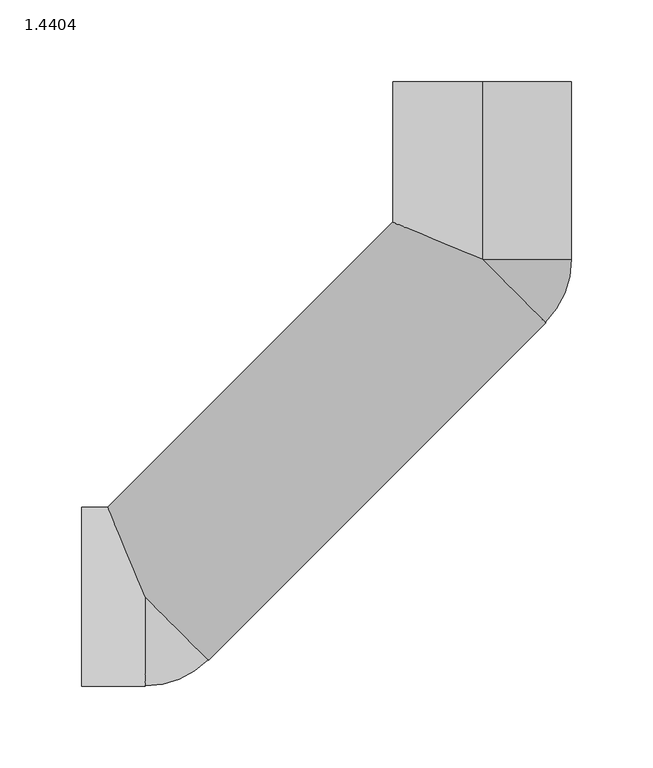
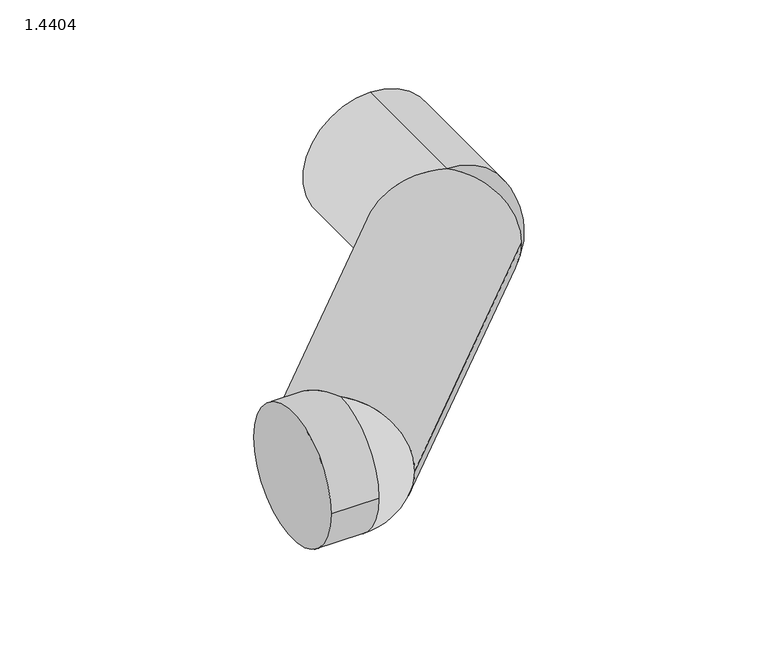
"""IFC4 building model written with IfcOpenShell, lengths in millimetres: pipe fitting geometry, PIF_ST_UN_ACO pipe long bend_ACO : 1.4404."""

from ifc_helpers import new_model, si_unit, point, frame, origin, place, context, project, spatial, circle_curve, ellipse_curve, trimmed, source, transform, mapped, element, save
from ifc_brep_helpers import plane_surface, cylinder_surface, revolved_surface, advanced_brep


def pipe_fitting_1_4404_78f4e6b2(model_context):
    return source(origin(), model_context, "Body", "AdvancedBrep", [
        advanced_brep(
        [(-168.109127, -38.890873, 0.0), (38.890873, 168.109127, 0.0), (0.0, 207.0, 55.0), (-55.0, 229.7817459, 0.0), (-229.7817459, 55.0, 0.0), (-207.0, 0.0, 55.0), (-207.0, 0.0, -55.0), (0.0, 207.0, -55.0), (-246.0, -55.0, 0.0), (-246.0, 55.0, 0.0), (-207.0, -55.0, 0.0), (0.0, 316.0, -55.0), (0.0, 316.0, 55.0)],
        [
            (0, 1),
            (1, 2, circle_curve(frame((0.0, 207.0, 0.0), z_axis=(-0.707106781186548, -0.7071067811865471, 0.0), x_axis=(-0.7071067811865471, 0.707106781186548, 0.0)), 55.0)),
            (2, 3, ellipse_curve(frame((0.0, 207.0, 0.0), z_axis=(-0.3826834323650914, -0.923879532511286, 0.0), x_axis=(-0.9238795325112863, 0.3826834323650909, 0.0)), 59.531571, 55.0)),
            (3, 4),
            (4, 5, ellipse_curve(frame((-207.0, 0.0, 0.0), z_axis=(0.9238795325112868, 0.3826834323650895, 0.0), x_axis=(0.3826834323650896, -0.923879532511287, 0.0)), 59.531571, 55.0)),
            (5, 0, circle_curve(frame((-207.0, 0.0, 0.0), z_axis=(0.707106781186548, 0.7071067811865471, 0.0), x_axis=(-0.7071067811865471, 0.707106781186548, 0.0)), 55.0)),
            (0, 6, circle_curve(frame((-207.0, 0.0, 0.0), z_axis=(0.707106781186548, 0.7071067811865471, 0.0), x_axis=(-0.7071067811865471, 0.707106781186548, 0.0)), 55.0)),
            (6, 4, ellipse_curve(frame((-207.0, 0.0, 0.0), z_axis=(0.9238795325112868, 0.3826834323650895, 0.0), x_axis=(0.3826834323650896, -0.923879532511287, 0.0)), 59.531571, 55.0)),
            (3, 7, ellipse_curve(frame((0.0, 207.0, 0.0), z_axis=(-0.3826834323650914, -0.923879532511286, 0.0), x_axis=(-0.9238795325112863, 0.3826834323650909, 0.0)), 59.531571, 55.0)),
            (7, 1, circle_curve(frame((0.0, 207.0, 0.0), z_axis=(-0.707106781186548, -0.7071067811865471, 0.0), x_axis=(-0.7071067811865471, 0.707106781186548, 0.0)), 55.0)),
            (8, 9, circle_curve(frame((-246.0, 0.0, 0.0), z_axis=(-1.0, 0.0, 0.0), x_axis=(0.0, 1.0, 0.0)), 55.0)),
            (9, 8, circle_curve(frame((-246.0, 0.0, 0.0), z_axis=(-1.0, 0.0, 0.0), x_axis=(0.0, 1.0, 0.0)), 55.0)),
            (9, 4),
            (6, 10, circle_curve(frame((-207.0, 0.0, 0.0), z_axis=(-1.0, 0.0, 0.0), x_axis=(0.0, 1.0, 0.0)), 55.0)),
            (10, 8),
            (10, 5, circle_curve(frame((-207.0, 0.0, 0.0), z_axis=(-1.0, 0.0, 0.0), x_axis=(0.0, 1.0, 0.0)), 55.0)),
            (11, 12, circle_curve(frame((0.0, 316.0, 0.0), z_axis=(0.0, 1.0, 0.0), x_axis=(0.0, 0.0, 1.0)), 55.0)),
            (12, 11, circle_curve(frame((0.0, 316.0, 0.0), z_axis=(0.0, 1.0, 0.0), x_axis=(0.0, 0.0, 1.0)), 55.0)),
            (11, 7),
            (2, 12),
            (2, 7, circle_curve(frame((0.0, 207.0, 0.0), z_axis=(0.0, 1.0, 0.0), x_axis=(0.0, 0.0, 1.0)), 55.0)),
        ],
        [
            cylinder_surface(frame((-207.0, 0.0, 0.0), z_axis=(-0.707106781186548, -0.7071067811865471, 0.0), x_axis=(-0.7071067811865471, 0.707106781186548, 0.0)), 55.0),
            plane_surface(frame((-246.0, 55.0, 0.0), z_axis=(-1.0, 0.0, 0.0), x_axis=(0.0, 0.0, -1.0))),
            cylinder_surface(frame((-246.0, 0.0, 0.0), z_axis=(1.0, 0.0, 0.0), x_axis=(0.0, 1.0, 0.0)), 55.0),
            revolved_surface(trimmed(ellipse_curve(frame((-207.0, 0.0, 0.0), z_axis=(1.0, 0.0, 0.0), x_axis=(0.0, 1.0, 0.0)), 55.0, 55.0), [point((-207.0, 0.0, 55.0))], [point((-207.0, 0.0, -55.0))], True, "CARTESIAN"), (-207.0, 0.0, -83.4043214), (0.0, 0.0, -1.0)),
            plane_surface(frame((0.0, 316.0, 55.0), z_axis=(0.0, 1.0, 0.0), x_axis=(1.0, 0.0, 0.0))),
            cylinder_surface(frame((0.0, 316.0, 0.0), z_axis=(0.0, -1.0, 0.0), x_axis=(0.0, 0.0, 1.0)), 55.0),
            revolved_surface(trimmed(ellipse_curve(frame((0.0, 207.0, 0.0), z_axis=(0.0, -1.0, 0.0), x_axis=(0.0, 0.0, 1.0)), 55.0, 55.0), [point((0.0, 207.0, -55.0))], [point((0.0, 207.0, 55.0))], True, "CARTESIAN"), (0.0, 207.0, -91.5906933), (0.0, 0.0, 1.0)),
        ],
        [
            (0, [[1, 2, 3, 4, 5, 6]]),
            (0, [[-1, 7, 8, -4, 9, 10]]),
            (1, [[11, 12]]),
            (2, [[-12, 13, -8, 14, 15]]),
            (2, [[-11, -15, 16, -5, -13]]),
            (3, [[-6, -16, -14, -7]]),
            (4, [[17, 18]]),
            (5, [[-17, 19, -9, -3, 20]]),
            (5, [[-18, -20, 21, -19]]),
            (6, [[-2, -10, -21]]),
        ],
    ),
    ])


if __name__ == "__main__":
    model = new_model("IFC4")
    model_context = context("Model", 3, world=origin())
    ifc_project = project(units=[si_unit("LENGTHUNIT", "METRE", prefix="MILLI")], contexts=[model_context])
    site = spatial("IfcSite", under=ifc_project)
    building = spatial("IfcBuilding", under=site)
    placement = place(None, origin())
    pipe_fitting_1_4404_shape = pipe_fitting_1_4404_78f4e6b2(model_context)
    element("IfcPipeFitting", 1, ObjectType="PIF_ST_UN_ACO pipe long bend_ACO : 1.4404", at=placement, inside=building, context=model_context, shape_type="MappedRepresentation", body=[
        mapped(pipe_fitting_1_4404_shape, transform((0.0, 0.0, 0.0), x_axis=(1.0, 0.0, 0.0), y_axis=(0.0, 1.0, 0.0), z_axis=(0.0, 0.0, 1.0))),
    ])
    save(model, "model.ifc")
